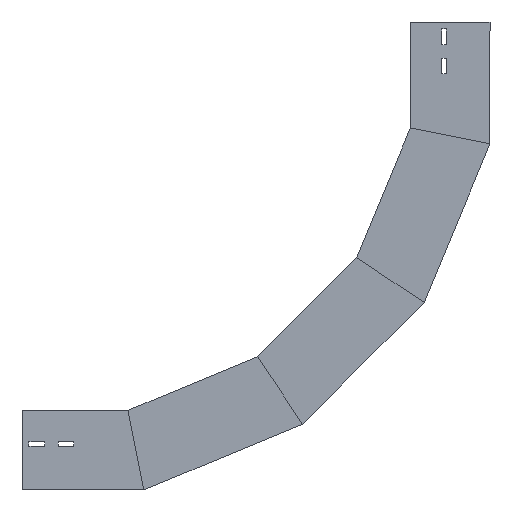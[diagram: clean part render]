
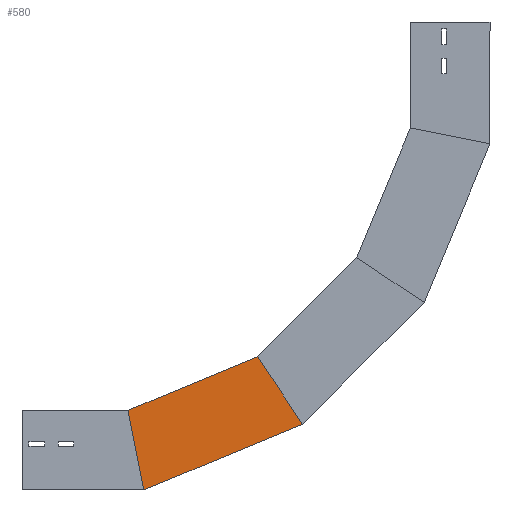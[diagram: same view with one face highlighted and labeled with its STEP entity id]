
A CAD part, left-side view. The second image highlights one B-rep face of the part: STEP entity #580.
In plain terms, the highlighted planar face has unit normal (-1, 0, 0) as drawn and (1, 0, 0) by its records, which use the part's own axes.
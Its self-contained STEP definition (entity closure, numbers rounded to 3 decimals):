
#56 = CARTESIAN_POINT ( 'NONE',  ( 0., 32.93, -165.55 ) ) ;
#123 = DIRECTION ( 'NONE',  ( 0., 0., 1. ) ) ;
#140 = EDGE_CURVE ( 'NONE', #1163, #447, #218, .T. ) ;
#163 = VECTOR ( 'NONE', #1489, 1000. ) ;
#218 = LINE ( 'NONE', #1394, #894 ) ;
#275 = CARTESIAN_POINT ( 'NONE',  ( 0., 112.5, -149.722 ) ) ;
#280 = FACE_OUTER_BOUND ( 'NONE', #1444, .T. ) ;
#447 = VERTEX_POINT ( 'NONE', #967 ) ;
#451 = EDGE_CURVE ( 'NONE', #1540, #447, #985, .T. ) ;
#580 = ADVANCED_FACE ( 'NONE', ( #280 ), #881, .F. ) ;
#612 = VERTEX_POINT ( 'NONE', #275 ) ;
#783 = EDGE_CURVE ( 'NONE', #612, #1540, #1416, .T. ) ;
#835 = ORIENTED_EDGE ( 'NONE', *, *, #140, .T. ) ;
#844 = AXIS2_PLACEMENT_3D ( 'NONE', #1003, #865, #123 ) ;
#865 = DIRECTION ( 'NONE',  ( -1., 0., 0. ) ) ;
#881 = PLANE ( 'NONE',  #844 ) ;
#894 = VECTOR ( 'NONE', #973, 1000. ) ;
#900 = VECTOR ( 'NONE', #1840, 1000. ) ;
#941 = ORIENTED_EDGE ( 'NONE', *, *, #783, .F. ) ;
#967 = CARTESIAN_POINT ( 'NONE',  ( 0., 93.03, -396.695 ) ) ;
#973 = DIRECTION ( 'NONE',  ( 0., 0.383, -0.924 ) ) ;
#985 = LINE ( 'NONE', #1862, #900 ) ;
#1003 = CARTESIAN_POINT ( 'NONE',  ( 0., 0., -172.1 ) ) ;
#1016 = ORIENTED_EDGE ( 'NONE', *, *, #1091, .T. ) ;
#1091 = EDGE_CURVE ( 'NONE', #612, #1163, #1366, .T. ) ;
#1105 = DIRECTION ( 'NONE',  ( 0., 0.383, -0.924 ) ) ;
#1163 = VERTEX_POINT ( 'NONE', #1531 ) ;
#1307 = VECTOR ( 'NONE', #1105, 1000. ) ;
#1366 = LINE ( 'NONE', #56, #163 ) ;
#1394 = CARTESIAN_POINT ( 'NONE',  ( 0., 0., -172.1 ) ) ;
#1398 = CARTESIAN_POINT ( 'NONE',  ( 0., 103.936, -129.048 ) ) ;
#1416 = LINE ( 'NONE', #1398, #1307 ) ;
#1444 = EDGE_LOOP ( 'NONE', ( #941, #1016, #835, #1509 ) ) ;
#1489 = DIRECTION ( 'NONE',  ( 0., -0.981, -0.195 ) ) ;
#1509 = ORIENTED_EDGE ( 'NONE', *, *, #451, .F. ) ;
#1531 = CARTESIAN_POINT ( 'NONE',  ( 0., 0., -172.1 ) ) ;
#1540 = VERTEX_POINT ( 'NONE', #1882 ) ;
#1840 = DIRECTION ( 'NONE',  ( 0., -0.831, -0.556 ) ) ;
#1862 = CARTESIAN_POINT ( 'NONE',  ( 0., 132.464, -370.346 ) ) ;
#1882 = CARTESIAN_POINT ( 'NONE',  ( 0., 188.403, -332.969 ) ) ;
